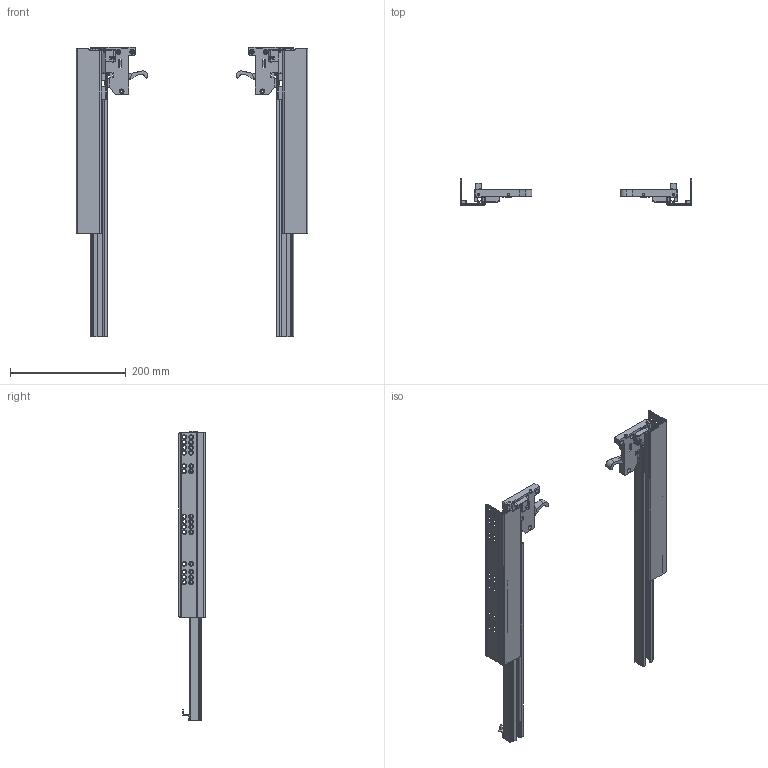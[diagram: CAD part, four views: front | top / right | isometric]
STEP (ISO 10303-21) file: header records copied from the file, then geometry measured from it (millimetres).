
FILE_DESCRIPTION(/* description */ (''),/* implementation_level */ '2;1');
FILE_NAME(/* name */ 'D:\$Workingspace\Designs\Katalog\Cadsoft\GTV Prowadnice\PB-3D0SHX18-...-H\PB-3D0SHX18-500-H.stp',/* time_stamp */ '2019-05-23T09:22:27+02:00',/* author */ ('tomaszw'),/* organization */ (''),/* preprocessor_version */ 'ST-DEVELOPER v17',/* originating_system */ 'Autodesk Inventor 2019',/* authorisation */ '');
FILE_SCHEMA (('AUTOMOTIVE_DESIGN { 1 0 10303 214 3 1 1 }'));
Length unit declared in the file: millimetre
Products named in the file (9): PB-3D0SHX18-500_H; PB-3D0SHX18-CL-500_H; PB-3D0SHX18-CR-500_H; PB-3D0SHX18-DL-500_H; PB-3D0SHX18-DR-500_H; PB-3D0SHX18-DWL-500_H; PB-3D0SHX18-DWR-500_H; PB-3D0SHX18_H-SL; PB-3D0SHX18_H-SR
Assembly tree (8 placements, depth 2):
  PB-3D0SHX18-500_H
    PB-3D0SHX18-CL-500_H
    PB-3D0SHX18-CR-500_H
    PB-3D0SHX18-DL-500_H
    PB-3D0SHX18-DR-500_H
    PB-3D0SHX18-DWL-500_H
    PB-3D0SHX18-DWR-500_H
    PB-3D0SHX18_H-SL
    PB-3D0SHX18_H-SR
Bounding box: 400 x 45 x 500 mm (x, y, z)
Volume: 384527.8 mm3; surface area: 405971.2 mm2
Topology: 20 solids, 20 shells, 1040 faces, 2960 edges, 1964 vertices
Faces by surface type: plane 604, cylinder 362, cone 56, sphere 10, torus 8
Full cylindrical faces by diameter (mm): 3 x2, 4 x12, 4.5 x4, 6 x56, 8 x6
Entity records: 35726 total; most frequent: DIRECTION 6000, CARTESIAN_POINT 5993, ORIENTED_EDGE 5928, EDGE_CURVE 2964, LINE 2042, VECTOR 2042, AXIS2_PLACEMENT_3D 1979, VERTEX_POINT 1972
